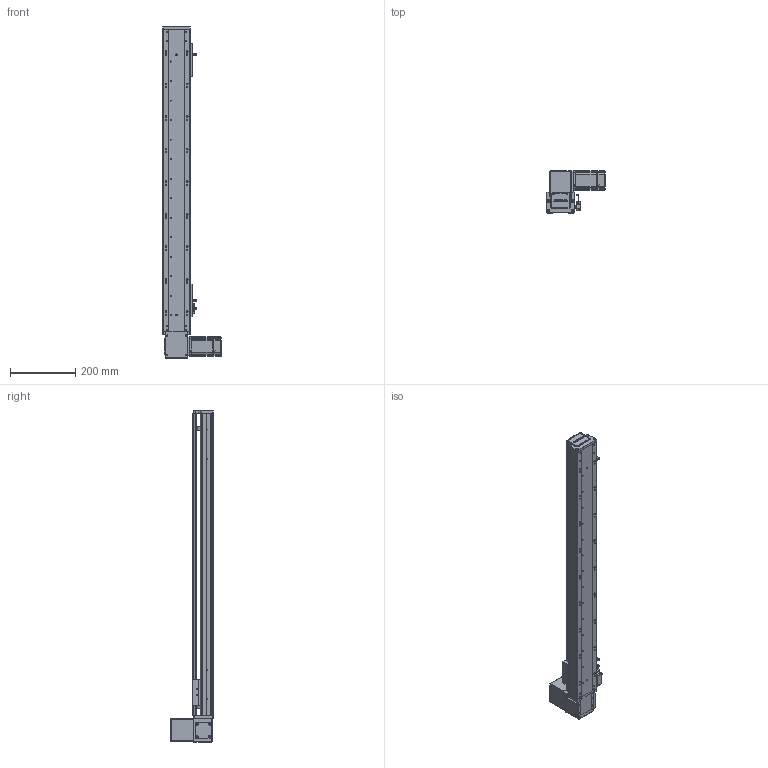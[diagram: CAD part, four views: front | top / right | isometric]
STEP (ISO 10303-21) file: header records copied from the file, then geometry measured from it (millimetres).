
FILE_DESCRIPTION (( 'STEP AP203' ), '1' );
FILE_NAME ('RY80-T-300-UR.SLDASM_750.step', '2021-03-01T02:26:18', ( '盈信电脑' ), ( '东莞市道滘镇水果街19号' ), 'SwSTEP 2.0', 'SolidWorks 2012', '' );
FILE_SCHEMA (( 'CONFIG_CONTROL_DESIGN' ));
Length unit declared in the file: millimetre
Products named in the file (20): 672嫖萇羲壽假蚾釱; RY80-T-300-UR倰第奻裔啣_750; RY80-T綴裔啣; RY80-T-300-UR倰第菁釱_750; RY80-T肮祭謫臏賑輸; RY80-T-300-UR.SLDASM_750; RY80-T萇儂假蚾啣; RY80-T-M4蹟翐2; 1; RY80-T肮祭謫奻殏俋欶; 滅袉蝶18-10; RY100-T粣創揤踡裔; RY80-T-上下折同步轮盖板; RY80-T翋肮祭謫裔啣; RY80-T-翋肮祭謫釱; RY80-T肮祭湍揤輸2; RY80-T粣創揤踡輸; RY80-T肮祭湍揤輸1; 覜茼ん672; RY80俋离覜茼え
Assembly tree (23 placements, depth 2):
  RY80-T-300-UR.SLDASM_750
    RY80-T-300-UR倰第菁釱_750
    RY80-T肮祭謫臏賑輸
    RY80-T-300-UR倰第奻裔啣_750
    RY80-T綴裔啣
    672嫖萇羲壽假蚾釱  x2
    覜茼ん672  x3
    RY80俋离覜茼え
    RY80-T-翋肮祭謫釱
    RY80-T肮祭湍揤輸1
    RY80-T肮祭湍揤輸2
    RY80-T粣創揤踡輸
    滅袉蝶18-10  x2
    RY100-T粣創揤踡裔
    RY80-T翋肮祭謫裔啣
    RY80-T-上下折同步轮盖板
    1
    RY80-T肮祭謫奻殏俋欶
    RY80-T-M4蹟翐2
    RY80-T萇儂假蚾啣
Bounding box: 180 x 130.5 x 1020 mm (x, y, z)
Volume: 1863551.7 mm3; surface area: 771428.5 mm2
Topology: 23 solids, 23 shells, 2550 faces, 7046 edges, 4578 vertices
Faces by surface type: plane 1353, cylinder 998, cone 143, bspline 56
Entity records: 82200 total; most frequent: CARTESIAN_POINT 20372, ORIENTED_EDGE 12736, DIRECTION 11906, EDGE_CURVE 6368, VERTEX_POINT 4182, AXIS2_PLACEMENT_3D 4024, LINE 3858, VECTOR 3858
